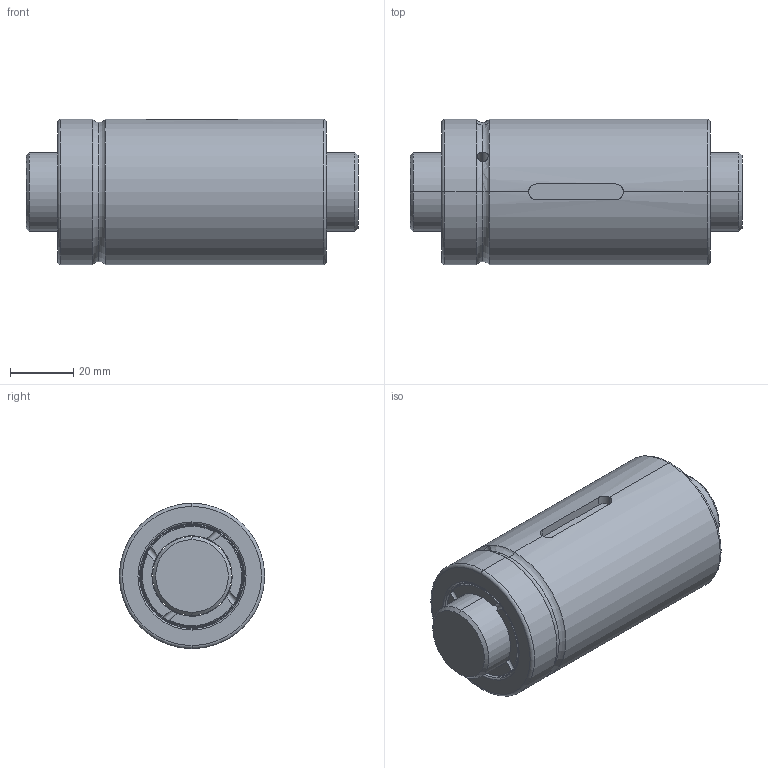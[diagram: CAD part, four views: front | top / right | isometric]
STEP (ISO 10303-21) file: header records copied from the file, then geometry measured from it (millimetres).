
FILE_DESCRIPTION (( 'STEP AP203' ), '1' );
FILE_NAME ('SCIR02510T4-C.STEP', '2020-06-17T07:36:39', ( '' ), ( '' ), 'SwSTEP 2.0', 'SolidWorks 2013', '' );
FILE_SCHEMA (( 'CONFIG_CONTROL_DESIGN' ));
Length unit declared in the file: millimetre
Products named in the file (1): SCIR02510T4-C
Bounding box: 105 x 46 x 46 mm (x, y, z)
Volume: 141531.5 mm3; surface area: 33976.5 mm2
Topology: 2 solids, 2 shells, 98 faces, 230 edges, 141 vertices
Faces by surface type: cylinder 43, torus 30, plane 21, cone 4
Entity records: 3615 total; most frequent: CARTESIAN_POINT 1308, DIRECTION 484, ORIENTED_EDGE 460, EDGE_CURVE 230, AXIS2_PLACEMENT_3D 215, VERTEX_POINT 141, CIRCLE 116, EDGE_LOOP 107
